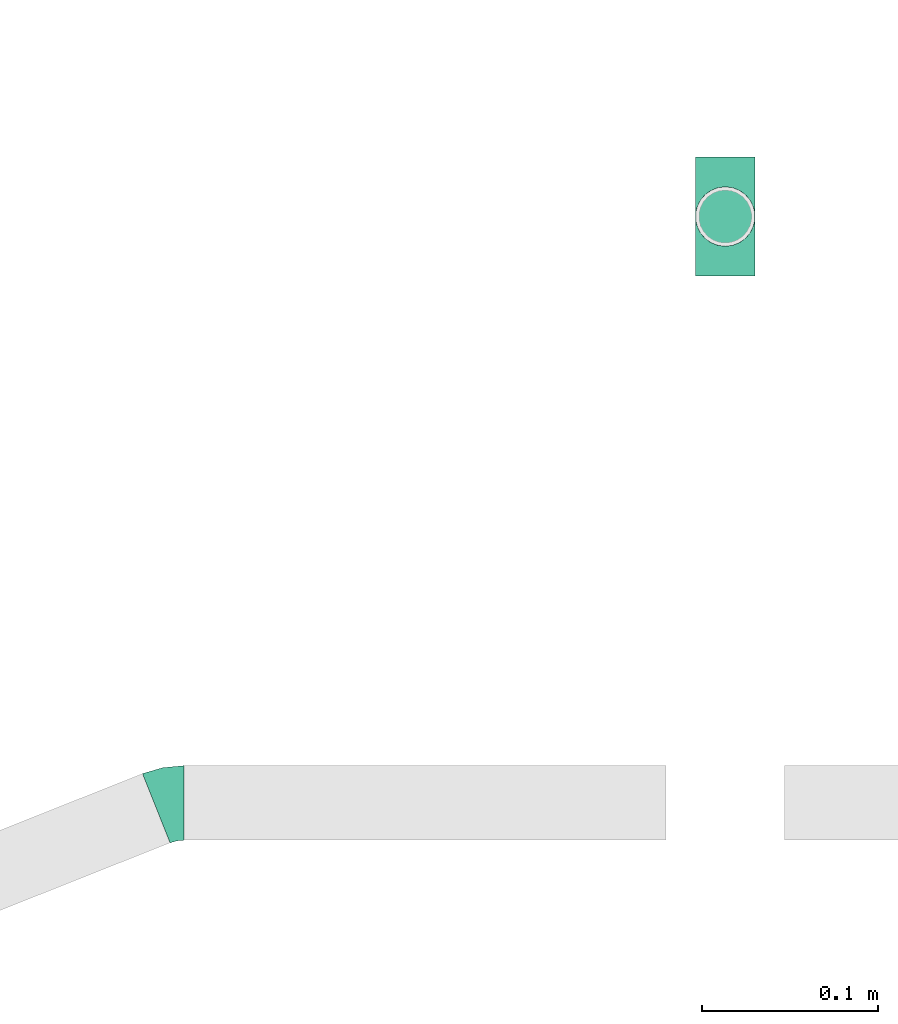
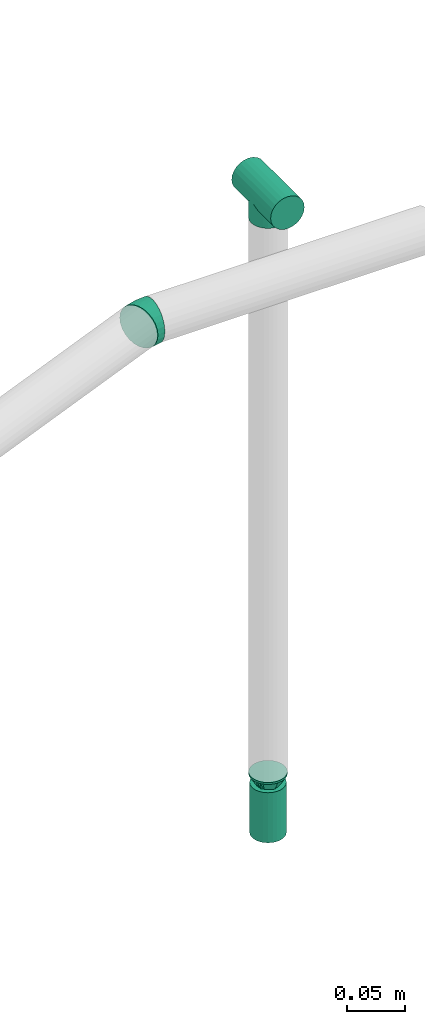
# One storey, part 31 of 94: 3 flow fittings, 1 flow terminal.
"""IFC2X3 building model written with IfcOpenShell, lengths in millimetres."""

from ifc_helpers import new_model, entity, si_unit, converted_unit, derived_unit, direction, frame, origin_with_axes, place, context, subcontext, project, spatial, open_shell, surface_model, source, transform, mapped, type_object, element, save


model = new_model("IFC2X3")

# Units and contexts
model_context = context("Model", 3, precision=0.01, world=frame((0.0, 4.29681676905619e-09, 0.0)), true_north=direction((4.01073788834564e-13, 1.0)))
plan_context = context("Plan", 3, precision=0.01, world=frame((0.0, 4.29681676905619e-09, 0.0)), true_north=direction((4.01073788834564e-13, 1.0)))
body_context = subcontext(model_context, "Body", "Model", "MODEL_VIEW")
ifc_project = project(units=[converted_unit("PLANEANGLEUNIT", "DEGREE", entity("IfcPositiveLengthMeasure", 0.0174532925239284), si_unit("PLANEANGLEUNIT", "RADIAN"), dimensions=[0, 0, 0, 0, 0, 0, 0]), si_unit("AREAUNIT", "SQUARE_METRE"), si_unit("LENGTHUNIT", "METRE", prefix="MILLI"), si_unit("MASSUNIT", "GRAM", prefix="KILO"), si_unit("POWERUNIT", "WATT"), si_unit("PRESSUREUNIT", "PASCAL", prefix="KILO"), si_unit("FORCEUNIT", "NEWTON", prefix="KILO"), si_unit("ELECTRICVOLTAGEUNIT", "VOLT"), si_unit("ELECTRICCURRENTUNIT", "AMPERE"), si_unit("THERMODYNAMICTEMPERATUREUNIT", "DEGREE_CELSIUS"), si_unit("TIMEUNIT", "SECOND"), si_unit("VOLUMEUNIT", "CUBIC_METRE"), derived_unit("LINEARVELOCITYUNIT", [(si_unit("LENGTHUNIT", "METRE"), 1), (si_unit("TIMEUNIT", "SECOND"), -1)]), derived_unit("VOLUMETRICFLOWRATEUNIT", [(si_unit("VOLUMEUNIT", "CUBIC_METRE"), 1), (si_unit("TIMEUNIT", "SECOND"), -1)]), derived_unit("THERMALTRANSMITTANCEUNIT", [(si_unit("POWERUNIT", "WATT"), 1), (si_unit("THERMODYNAMICTEMPERATUREUNIT", "KELVIN"), -1), (si_unit("AREAUNIT", "SQUARE_METRE"), -1)]), derived_unit("SOUNDPRESSUREUNIT", [(si_unit("PRESSUREUNIT", "PASCAL"), 1)])], contexts=[model_context, plan_context])

# Site, building, storey
site_placement = place(None, frame((0.0, -4.29681676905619e-09, 0.0), z_axis=(0.0, 0.0, 1.0), x_axis=(1.0, 0.0, 0.0)))
site = spatial("IfcSite", under=ifc_project, at=site_placement, CompositionType="ELEMENT")
building_placement = place(site_placement, frame((0.0, 4.29681676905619e-09, 0.0), z_axis=(0.0, 0.0, 1.0), x_axis=(1.0, 0.0, 0.0)))
building = spatial("IfcBuilding", under=site, at=building_placement, Name="mc-building", CompositionType="ELEMENT")
storey_placement = place(building_placement, frame((0.0, 0.0, 210900.0), z_axis=(0.0, 0.0, 1.0), x_axis=(1.0, 0.0, 0.0)))
storey = spatial("IfcBuildingStorey", under=building, at=storey_placement, Name="Nivå F", CompositionType="ELEMENT", Elevation=210900.0)

# Flow fittings
pipe_fitting_type_1 = type_object("IfcPipeFittingType", Name="magi_pipe_fe_reducer_centric_short_NOR", PredefinedType="TRANSITION")
shared_shape_1 = source(origin_with_axes(), body_context, "Body", "SurfaceModel", [
    surface_model("IfcShellBasedSurfaceModel", [(14.4, 5.35, -9.26647), (14.4, 0.0, -10.7), (14.4, 2.76936, -10.33541), (14.4, 10.33541, -2.76936), (14.4, 7.56604, -7.56604), (14.4, -10.33541, -2.76936), (14.4, 9.26647, -5.35), (14.4, 0.0, 10.7), (14.4, -5.35, -9.26647), (14.4, -2.76936, -10.33541), (14.4, -7.56604, -7.56604), (14.4, -9.26647, -5.35), (14.4, 10.7, 0.0), (14.4, 10.33541, 2.76936), (14.4, 9.26647, 5.35), (14.4, 7.56604, 7.56604), (14.4, 2.76936, 10.33541), (14.4, 5.35, 9.26647), (14.4, -10.33541, 2.76936), (14.4, -7.56604, 7.56604), (14.4, -9.26647, 5.35), (14.4, -10.7, 0.0), (14.4, -2.76936, 10.33541), (14.4, -5.35, 9.26647), (12.4, 2.76936, 10.33541), (12.4, -10.33541, -2.76936), (12.4, 0.0, 10.7), (12.4, 5.35, 9.26647), (12.4, 7.56604, 7.56604), (12.4, 9.26647, 5.35), (12.4, 10.33541, 2.76936), (12.4, -10.33541, 2.76936), (12.4, -2.76936, 10.33541), (12.4, -7.56604, 7.56604), (12.4, -5.35, 9.26647), (12.4, -9.26647, 5.35), (12.4, -10.7, 0.0), (12.4, 10.33541, -2.76936), (12.4, 5.35, -9.26647), (12.4, 9.26647, -5.35), (12.4, 7.56604, -7.56604), (12.4, 2.76936, -10.33541), (12.4, -9.26647, -5.35), (12.4, -5.35, -9.26647), (12.4, -7.56604, -7.56604), (12.4, 0.0, -10.7), (12.4, -2.76936, -10.33541), (12.4, 10.7, 0.0), (-2.0, 11.9501, 11.9501), (-2.0, 0.0, 16.9), (-2.0, 4.37404, 16.32415), (-2.0, 8.45, 14.63583), (-2.0, 14.63583, 8.45), (-2.0, 16.32415, 4.37404), (-2.0, -16.32415, 4.37404), (-2.0, -8.45, 14.63583), (-2.0, -14.63583, 8.45), (-2.0, -11.9501, 11.9501), (-2.0, -4.37404, 16.32415), (-2.0, -16.32415, -4.37404), (-2.0, -16.9, 0.0), (-2.0, -8.45, -14.63583), (-2.0, 16.32415, -4.37404), (-2.0, 11.9501, -11.9501), (-2.0, 14.63583, -8.45), (-2.0, 8.45, -14.63583), (-2.0, 4.37404, -16.32415), (-2.0, 0.0, -16.9), (-2.0, -11.9501, -11.9501), (-2.0, -14.63583, -8.45), (-2.0, -4.37404, -16.32415), (-2.0, 16.9, 0.0), (0.0, 4.37404, -16.32415), (0.0, 8.45, -14.63583), (0.0, 11.9501, -11.9501), (0.0, 0.0, -16.9), (0.0, 16.32415, -4.37404), (0.0, 16.32415, 4.37404), (0.0, 14.63583, -8.45), (0.0, -8.45, -14.63583), (0.0, -4.37404, -16.32415), (0.0, -11.9501, -11.9501), (0.0, -16.32415, -4.37404), (0.0, -14.63583, -8.45), (0.0, -16.32415, 4.37404), (0.0, 16.9, 0.0), (0.0, 14.63583, 8.45), (0.0, 11.9501, 11.9501), (0.0, 4.37404, 16.32415), (0.0, 8.45, 14.63583), (0.0, 0.0, 16.9), (0.0, -14.63583, 8.45), (0.0, -16.9, 0.0), (0.0, -8.45, 14.63583), (0.0, -11.9501, 11.9501), (0.0, -4.37404, 16.32415), (12.4, 9.3625, -2.31662), (0.0, 14.42505, -5.97505), (0.0, 15.66253, -2.98753), (12.4, -6.6875, -6.94985), (0.0, -13.18758, -8.96258), (0.0, 2.98753, -15.66253), (12.4, 0.0, -9.26647), (12.4, 6.6875, -6.94985), (0.0, 8.96258, -13.18758), (12.4, -9.3625, -2.31662), (0.0, -15.66253, -2.98753), (0.0, -14.42505, -5.97505), (0.0, 5.97505, -14.42505), (0.0, -2.98753, -15.66253), (0.0, -8.96258, -13.18758), (0.0, 13.18758, -8.96258), (12.4, 8.025, -4.63324), (12.4, -2.675, -9.26647), (12.4, 2.675, -9.26647), (0.0, -5.97505, -14.42505), (12.4, -8.025, -4.63324), (12.4, -9.3625, 2.31662), (0.0, -14.42505, 5.97505), (0.0, -15.66253, 2.98753), (12.4, 6.6875, 6.94985), (0.0, 13.18758, 8.96258), (0.0, -2.98753, 15.66253), (12.4, 0.0, 9.26647), (12.4, -6.6875, 6.94985), (0.0, -8.96258, 13.18758), (12.4, 9.3625, 2.31662), (0.0, 15.66253, 2.98753), (0.0, 14.42505, 5.97505), (0.0, -5.97505, 14.42505), (0.0, 2.98753, 15.66253), (0.0, 8.96258, 13.18758), (0.0, -13.18758, 8.96258), (12.4, -8.025, 4.63324), (12.4, 2.675, 9.26647), (12.4, -2.675, 9.26647), (0.0, 5.97505, 14.42505), (12.4, 8.025, 4.63324)], [open_shell([[[0, 1, 2]], [[3, 0, 4]], [[5, 0, 3]], [[3, 4, 6]], [[7, 5, 3]], [[1, 8, 9]], [[1, 0, 8]], [[10, 5, 11]], [[5, 10, 8]], [[0, 5, 8]], [[3, 12, 13]], [[13, 14, 15]], [[13, 15, 16]], [[7, 3, 16]], [[16, 15, 17]], [[7, 18, 5]], [[18, 19, 20]], [[21, 5, 18]], [[19, 22, 23]], [[22, 19, 18]], [[7, 22, 18]], [[13, 16, 3]], [[24, 25, 26]], [[27, 25, 24]], [[28, 29, 30]], [[28, 25, 27]], [[31, 26, 25]], [[32, 33, 34]], [[33, 32, 31]], [[33, 31, 35]], [[32, 26, 31]], [[31, 25, 36]], [[30, 37, 28]], [[25, 28, 37]], [[38, 37, 39]], [[37, 38, 25]], [[38, 39, 40]], [[41, 25, 38]], [[42, 43, 44]], [[43, 42, 25]], [[43, 45, 46]], [[43, 25, 41]], [[41, 45, 43]], [[37, 30, 47]], [[25, 5, 36]], [[42, 11, 25]], [[8, 44, 43]], [[42, 44, 10]], [[9, 43, 46]], [[25, 11, 5]], [[5, 21, 36]], [[9, 8, 43]], [[10, 44, 8]], [[10, 11, 42]], [[1, 9, 46]], [[46, 45, 1]], [[41, 2, 45]], [[38, 0, 41]], [[6, 40, 39]], [[38, 40, 4]], [[3, 39, 37]], [[38, 4, 0]], [[0, 2, 41]], [[12, 3, 37]], [[6, 39, 3]], [[6, 4, 40]], [[47, 12, 37]], [[45, 2, 1]], [[30, 13, 47]], [[29, 14, 30]], [[17, 28, 27]], [[29, 28, 15]], [[16, 27, 24]], [[30, 14, 13]], [[13, 12, 47]], [[16, 17, 27]], [[15, 28, 17]], [[15, 14, 29]], [[7, 16, 24]], [[24, 26, 7]], [[32, 22, 26]], [[34, 23, 32]], [[20, 33, 35]], [[34, 33, 19]], [[18, 35, 31]], [[34, 19, 23]], [[23, 22, 32]], [[21, 18, 31]], [[20, 35, 18]], [[20, 19, 33]], [[36, 21, 31]], [[26, 22, 7]], [[48, 49, 50]], [[48, 50, 51]], [[48, 52, 53]], [[48, 53, 49]], [[49, 53, 54]], [[55, 56, 57]], [[55, 58, 49]], [[56, 55, 49]], [[49, 54, 56]], [[54, 59, 60]], [[54, 53, 61]], [[53, 62, 63]], [[63, 62, 64]], [[63, 65, 66]], [[61, 53, 63]], [[67, 63, 66]], [[59, 68, 69]], [[68, 59, 61]], [[61, 67, 70]], [[59, 54, 61]], [[63, 67, 61]], [[53, 71, 62]], [[72, 73, 74]], [[75, 72, 74]], [[74, 76, 77]], [[76, 74, 78]], [[74, 77, 79]], [[75, 79, 80]], [[75, 74, 79]], [[81, 82, 83]], [[82, 81, 79]], [[79, 84, 82]], [[77, 76, 85]], [[77, 86, 87]], [[77, 87, 88]], [[88, 84, 79]], [[88, 87, 89]], [[84, 88, 90]], [[90, 91, 84]], [[92, 82, 84]], [[91, 93, 94]], [[91, 90, 93]], [[93, 90, 95]], [[79, 77, 88]], [[59, 82, 60]], [[69, 83, 59]], [[79, 68, 61]], [[69, 68, 81]], [[80, 61, 70]], [[59, 83, 82]], [[82, 92, 60]], [[80, 79, 61]], [[81, 68, 79]], [[81, 83, 69]], [[75, 80, 70]], [[70, 67, 75]], [[66, 72, 67]], [[65, 73, 66]], [[78, 63, 64]], [[65, 63, 74]], [[76, 64, 62]], [[65, 74, 73]], [[73, 72, 66]], [[85, 76, 62]], [[78, 64, 76]], [[78, 74, 63]], [[71, 85, 62]], [[67, 72, 75]], [[53, 77, 71]], [[52, 86, 53]], [[89, 48, 51]], [[52, 48, 87]], [[88, 51, 50]], [[53, 86, 77]], [[77, 85, 71]], [[88, 89, 51]], [[87, 48, 89]], [[87, 86, 52]], [[90, 88, 50]], [[50, 49, 90]], [[58, 95, 49]], [[55, 93, 58]], [[91, 57, 56]], [[55, 57, 94]], [[84, 56, 54]], [[55, 94, 93]], [[93, 95, 58]], [[92, 84, 54]], [[91, 56, 84]], [[91, 94, 57]], [[60, 92, 54]], [[49, 95, 90]], [[27, 34, 47]], [[47, 34, 43]], [[43, 38, 47]], [[43, 34, 36]], [[90, 87, 94]], [[92, 94, 87]], [[87, 74, 92]], [[75, 92, 74]], [[81, 92, 75]], [[74, 87, 85]], [[96, 97, 98]], [[81, 99, 100]], [[101, 102, 75]], [[98, 85, 47]], [[74, 103, 104]], [[104, 103, 38]], [[105, 106, 107]], [[38, 108, 104]], [[102, 109, 75]], [[110, 99, 81]], [[47, 96, 98]], [[103, 111, 112]], [[109, 102, 113]], [[36, 92, 106]], [[102, 101, 114]], [[110, 115, 43]], [[96, 112, 97]], [[107, 116, 105]], [[36, 106, 105]], [[113, 115, 109]], [[43, 115, 113]], [[116, 107, 100]], [[108, 38, 114]], [[111, 103, 74]], [[111, 97, 112]], [[99, 110, 43]], [[116, 100, 99]], [[101, 108, 114]], [[117, 118, 119]], [[87, 120, 121]], [[122, 123, 90]], [[119, 92, 36]], [[94, 124, 125]], [[125, 124, 34]], [[126, 127, 128]], [[34, 129, 125]], [[123, 130, 90]], [[131, 120, 87]], [[36, 117, 119]], [[124, 132, 133]], [[130, 123, 134]], [[47, 85, 127]], [[123, 122, 135]], [[131, 136, 27]], [[117, 133, 118]], [[128, 137, 126]], [[47, 127, 126]], [[134, 136, 130]], [[27, 136, 134]], [[137, 128, 121]], [[129, 34, 135]], [[132, 124, 94]], [[132, 118, 133]], [[120, 131, 27]], [[137, 121, 120]], [[122, 129, 135]]])]),
])
flow_fitting_1_placement = place(storey_placement, frame((722000.0, 435527.99693, 2809.35200000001), z_axis=(1.0, 0.0, 0.0), x_axis=(0.0, 0.0, -1.0)))
element("IfcFlowFitting", 1, at=flow_fitting_1_placement, inside=storey, type_object=pipe_fitting_type_1, Name="magi_pipe_fe_reducer_centric_short_NOR", context=body_context, shape_type="MappedRepresentation", body=[
    mapped(shared_shape_1, transform((0.0, 0.0, 0.0), scale=1.0)),
])
pipe_fitting_type_2 = type_object("IfcPipeFittingType", Name="magi_pipe_fe_tee_centric_90_NOR", PredefinedType="JUNCTION")
shared_shape_2 = source(origin_with_axes(), body_context, "Body", "SurfaceModel", [
    surface_model("IfcShellBasedSurfaceModel", [(-33.8, 4.37404, -16.32415), (-33.8, 0.0, -16.9), (-33.8, 16.32415, -4.37404), (-33.8, 8.45, -14.63583), (-33.8, 11.9501, -11.9501), (-33.8, 14.63583, -8.45), (-33.8, -16.9, 0.0), (-33.8, -11.9501, -11.9501), (-33.8, -14.63583, -8.45), (-33.8, -8.45, -14.63583), (-33.8, -4.37404, -16.32415), (-33.8, -16.32415, -4.37404), (-33.8, 14.63583, 8.45), (-33.8, 16.32415, 4.37404), (-33.8, -8.45, 14.63583), (-33.8, 8.45, 14.63583), (-33.8, 11.9501, 11.9501), (-33.8, 4.37404, 16.32415), (-33.8, 0.0, 16.9), (-33.8, -11.9501, 11.9501), (-33.8, -14.63583, 8.45), (-33.8, -16.32415, 4.37404), (-33.8, -4.37404, 16.32415), (-33.8, 16.9, 0.0), (33.8, 4.37404, -16.32415), (33.8, -16.9, 0.0), (33.8, 0.0, -16.9), (33.8, 14.63583, -8.45), (33.8, 8.45, -14.63583), (33.8, 16.32415, -4.37404), (33.8, 11.9501, -11.9501), (33.8, -16.32415, 4.37404), (33.8, -8.45, -14.63583), (33.8, -4.37404, -16.32415), (33.8, -11.9501, -11.9501), (33.8, -14.63583, -8.45), (33.8, -16.32415, -4.37404), (33.8, 16.32415, 4.37404), (33.8, 8.45, 14.63583), (33.8, 14.63583, 8.45), (33.8, 11.9501, 11.9501), (33.8, -8.45, 14.63583), (33.8, 4.37404, 16.32415), (33.8, -14.63583, 8.45), (33.8, -11.9501, 11.9501), (33.8, 0.0, 16.9), (33.8, -4.37404, 16.32415), (33.8, 16.9, 0.0), (16.28698, -16.28698, 4.51047), (16.9, -16.9, 0.0), (14.62704, -14.62704, 8.4652), (9.47213, -9.47213, 13.99602), (12.26343, -12.26343, 11.62834), (-16.9, -16.9, 0.0), (-16.28698, -16.28698, 4.51047), (-14.62704, -14.62704, 8.4652), (-12.26343, -12.26343, 11.62834), (-9.47213, -9.47213, 13.99602), (-6.42894, -6.42894, 15.62942), (6.42894, -6.42894, 15.62942), (3.24522, -3.24522, 16.58549), (0.0, 0.0, 16.9), (-3.24522, -3.24522, 16.58549), (3.24522, -3.24522, -16.58549), (0.0, 0.0, -16.9), (-3.24522, -3.24522, -16.58549), (-6.42894, -6.42894, -15.62942), (6.42894, -6.42894, -15.62942), (9.47213, -9.47213, -13.99602), (12.26343, -12.26343, -11.62834), (14.62704, -14.62704, -8.4652), (16.28698, -16.28698, -4.51047), (-9.47213, -9.47213, -13.99602), (-12.26343, -12.26343, -11.62834), (-16.28698, -16.28698, -4.51047), (-14.62704, -14.62704, -8.4652), (4.37404, -25.35, -16.32415), (-16.9, -25.35, 0.0), (0.0, -25.35, -16.9), (14.63583, -25.35, -8.45), (8.45, -25.35, -14.63583), (16.32415, -25.35, -4.37404), (11.9501, -25.35, -11.9501), (-11.9501, -25.35, -11.9501), (-8.45, -25.35, -14.63583), (-4.37404, -25.35, -16.32415), (-14.63583, -25.35, -8.45), (-16.32415, -25.35, -4.37404), (16.9, -25.35, 0.0), (8.45, -25.35, 14.63583), (16.32415, -25.35, 4.37404), (14.63583, -25.35, 8.45), (-8.45, -25.35, 14.63583), (11.9501, -25.35, 11.9501), (4.37404, -25.35, 16.32415), (-16.32415, -25.35, 4.37404), (-11.9501, -25.35, 11.9501), (-14.63583, -25.35, 8.45), (0.0, -25.35, 16.9), (-4.37404, -25.35, 16.32415)], [open_shell([[[0, 1, 2]], [[3, 0, 4]], [[0, 2, 5]], [[4, 0, 5]], [[6, 2, 1]], [[7, 8, 9]], [[1, 10, 9]], [[11, 6, 8]], [[1, 9, 8]], [[1, 8, 6]], [[6, 12, 2]], [[12, 13, 2]], [[14, 12, 6]], [[12, 14, 15]], [[16, 12, 15]], [[17, 15, 18]], [[19, 14, 20]], [[21, 20, 14]], [[22, 18, 14]], [[14, 6, 21]], [[14, 18, 15]], [[23, 2, 13]], [[24, 25, 26]], [[27, 24, 28]], [[27, 29, 24]], [[27, 28, 30]], [[31, 25, 24]], [[26, 32, 33]], [[26, 34, 32]], [[35, 25, 36]], [[35, 34, 26]], [[25, 35, 26]], [[24, 29, 31]], [[29, 37, 38]], [[38, 37, 39]], [[38, 31, 29]], [[38, 39, 40]], [[41, 38, 42]], [[43, 41, 44]], [[41, 43, 31]], [[41, 45, 46]], [[41, 31, 38]], [[42, 45, 41]], [[29, 47, 37]], [[31, 43, 48]], [[25, 31, 49]], [[49, 31, 48]], [[43, 50, 48]], [[44, 41, 51]], [[50, 43, 52]], [[51, 52, 44]], [[52, 43, 44]], [[53, 54, 21]], [[53, 21, 6]], [[21, 54, 20]], [[54, 55, 20]], [[56, 57, 19]], [[19, 20, 56]], [[19, 57, 14]], [[56, 20, 55]], [[14, 57, 58]], [[51, 41, 59]], [[60, 45, 61]], [[59, 46, 60]], [[46, 59, 41]], [[60, 46, 45]], [[61, 45, 42]], [[39, 37, 13]], [[16, 38, 40]], [[12, 40, 39]], [[42, 38, 15]], [[23, 37, 47]], [[62, 61, 18]], [[62, 22, 58]], [[22, 62, 18]], [[58, 22, 14]], [[61, 17, 18]], [[42, 17, 61]], [[15, 17, 42]], [[15, 38, 16]], [[12, 16, 40]], [[13, 12, 39]], [[37, 23, 13]], [[5, 27, 30]], [[23, 47, 29]], [[30, 28, 3]], [[27, 2, 29]], [[26, 33, 63]], [[26, 64, 24]], [[64, 26, 63]], [[28, 24, 0]], [[64, 0, 24]], [[4, 30, 3]], [[2, 27, 5]], [[5, 30, 4]], [[2, 23, 29]], [[65, 66, 10]], [[1, 0, 64]], [[1, 65, 10]], [[66, 9, 10]], [[0, 3, 28]], [[1, 64, 65]], [[63, 33, 67]], [[32, 34, 68]], [[69, 68, 34]], [[35, 70, 69]], [[69, 34, 35]], [[32, 68, 67]], [[36, 25, 49]], [[36, 71, 35]], [[71, 36, 49]], [[35, 71, 70]], [[72, 9, 66]], [[72, 7, 9]], [[7, 72, 73]], [[7, 73, 8]], [[74, 53, 11]], [[75, 74, 8]], [[74, 11, 8]], [[11, 53, 6]], [[75, 8, 73]], [[32, 67, 33]], [[76, 77, 78]], [[79, 76, 80]], [[79, 81, 76]], [[79, 80, 82]], [[77, 76, 81]], [[78, 83, 84]], [[84, 85, 78]], [[86, 77, 87]], [[83, 78, 86]], [[77, 86, 78]], [[81, 88, 77]], [[89, 88, 90]], [[89, 90, 91]], [[92, 77, 89]], [[89, 91, 93]], [[92, 89, 94]], [[95, 96, 97]], [[96, 95, 92]], [[92, 98, 99]], [[95, 77, 92]], [[94, 98, 92]], [[89, 77, 88]], [[77, 95, 53]], [[54, 53, 95]], [[97, 96, 56]], [[96, 92, 57]], [[95, 97, 54]], [[58, 92, 99]], [[55, 54, 97]], [[56, 55, 97]], [[58, 57, 92]], [[98, 61, 62]], [[58, 99, 62]], [[56, 96, 57]], [[62, 99, 98]], [[94, 60, 98]], [[89, 59, 94]], [[91, 90, 48]], [[52, 93, 91]], [[93, 51, 89]], [[49, 90, 88]], [[59, 60, 94]], [[51, 59, 89]], [[49, 48, 90]], [[50, 52, 91]], [[48, 50, 91]], [[51, 93, 52]], [[98, 60, 61]], [[88, 81, 49]], [[71, 49, 81]], [[79, 82, 69]], [[82, 80, 68]], [[81, 79, 71]], [[67, 80, 76]], [[70, 71, 79]], [[69, 70, 79]], [[67, 68, 80]], [[78, 64, 63]], [[67, 76, 63]], [[69, 82, 68]], [[63, 76, 78]], [[85, 65, 78]], [[84, 66, 85]], [[86, 87, 74]], [[86, 73, 83]], [[72, 84, 83]], [[53, 87, 77]], [[66, 65, 85]], [[72, 66, 84]], [[53, 74, 87]], [[75, 73, 86]], [[74, 75, 86]], [[72, 83, 73]], [[78, 65, 64]]])]),
])
flow_fitting_2_placement = place(storey_placement, frame((722000.0, 435527.99693, 3423.42494), z_axis=(-1.0, 0.0, 0.0), x_axis=(0.0, -1.0, 0.0)))
element("IfcFlowFitting", 2, at=flow_fitting_2_placement, inside=storey, type_object=pipe_fitting_type_2, Name="magi_pipe_fe_tee_centric_90_NOR", context=body_context, shape_type="MappedRepresentation", body=[
    mapped(shared_shape_2, transform((0.0, 0.0, 0.0), scale=1.0)),
])
pipe_fitting_type_3 = type_object("IfcPipeFittingType", Name="magi_pipe_fe_elbow_short_001", PredefinedType="BEND")
shared_shape_3 = source(origin_with_axes(), body_context, "Body", "SurfaceModel", [
    surface_model("IfcShellBasedSurfaceModel", [(-8.11962, 10.6, -18.35974), (-8.11962, 5.48696, -20.47763), (-8.11962, 0.0, -21.2), (-8.11962, 14.99066, -14.99066), (-8.11962, 20.47763, -5.48696), (-8.11962, 18.35974, -10.6), (-8.11962, -14.99066, 14.99066), (-8.11962, -21.2, 0.0), (-8.11962, -10.6, -18.35974), (-8.11962, -14.99066, -14.99066), (-8.11962, -5.48696, -20.47763), (-8.11962, -20.47763, -5.48696), (-8.11962, -18.35974, -10.6), (-8.11962, 10.6, 18.35974), (-8.11962, 20.47763, 5.48696), (-8.11962, 18.35974, 10.6), (-8.11962, 14.99066, 14.99066), (-8.11962, 0.0, 21.2), (-8.11962, 5.48696, 20.47763), (-8.11962, -20.47763, 5.48696), (-8.11962, -18.35974, 10.6), (-8.11962, -10.6, 18.35974), (-8.11962, -5.48696, 20.47763), (-8.11962, 21.2, 0.0), (7.54516, 2.99981, -21.2), (5.51799, 8.09857, -20.47763), (3.62896, 12.84986, -18.35974), (14.32821, -14.06097, -10.6), (2.00682, 16.92988, -14.99066), (0.76211, 20.06059, -10.6), (-0.02035, 22.02864, -5.48696), (11.46135, -6.85023, -18.35974), (13.08349, -10.93025, -14.99066), (9.57233, -2.09894, -20.47763), (15.37755, -16.70028, 0.0), (15.11067, -16.02901, -5.48696), (15.11067, -16.02901, 5.48696), (3.62896, 12.84986, 18.35974), (-0.28723, 22.69991, 0.0), (-0.02035, 22.02864, 5.48696), (0.76211, 20.06059, 10.6), (2.00682, 16.92988, 14.99066), (13.08349, -10.93025, 14.99066), (5.51799, 8.09857, 20.47763), (14.32821, -14.06097, 10.6), (11.46135, -6.85023, 18.35974), (7.54516, 2.99981, 21.2), (9.57233, -2.09894, 20.47763), (2.32577, -12.14496, 16.63979), (2.25529, -16.08059, 12.67487), (3.56238, -18.60247, 7.80501), (1.42809, -7.45735, 19.48063), (0.42243, -2.20591, 20.9843), (-0.62216, 3.24888, 21.0476), (-4.13227, 21.57835, 0.0), (0.40328, -20.24732, 3.97289), (3.84245, -20.06494, 0.0), (0.42243, -2.20591, -20.9843), (1.42809, -7.45735, -19.48063), (3.84528, -15.7761, -12.67487), (3.56238, -18.60247, -7.80501), (-0.62216, 3.24888, -21.0476), (2.32577, -12.14496, -16.63979), (7.10567, -18.96381, -3.97289)], [open_shell([[[0, 1, 2]], [[3, 0, 2]], [[4, 5, 3]], [[2, 4, 3]], [[6, 2, 7]], [[8, 9, 10]], [[9, 2, 10]], [[11, 7, 12]], [[12, 2, 9]], [[12, 7, 2]], [[6, 4, 2]], [[13, 14, 4]], [[15, 14, 16]], [[13, 4, 6]], [[16, 14, 13]], [[13, 17, 18]], [[19, 20, 7]], [[7, 20, 6]], [[21, 22, 6]], [[17, 6, 22]], [[6, 17, 13]], [[23, 4, 14]], [[24, 25, 26]], [[27, 24, 26]], [[28, 29, 30]], [[28, 30, 26]], [[27, 26, 30]], [[31, 27, 32]], [[31, 33, 24]], [[27, 34, 35]], [[31, 24, 27]], [[27, 36, 34]], [[27, 30, 36]], [[37, 38, 39]], [[37, 39, 40]], [[38, 37, 36]], [[37, 40, 41]], [[42, 37, 43]], [[36, 42, 44]], [[36, 37, 42]], [[45, 46, 47]], [[46, 45, 42]], [[43, 46, 42]], [[38, 36, 30]], [[48, 6, 49]], [[21, 6, 48]], [[6, 20, 49]], [[36, 44, 50]], [[20, 50, 49]], [[22, 21, 51]], [[48, 51, 21]], [[17, 22, 52]], [[17, 53, 18]], [[44, 49, 50]], [[50, 20, 19]], [[42, 45, 48]], [[15, 16, 40]], [[13, 41, 16]], [[47, 46, 52]], [[51, 52, 22]], [[46, 43, 53]], [[54, 14, 39]], [[55, 50, 19]], [[54, 23, 14]], [[39, 14, 15]], [[7, 55, 19]], [[37, 13, 18]], [[52, 53, 17]], [[7, 56, 55]], [[45, 47, 51]], [[52, 51, 47]], [[45, 51, 48]], [[53, 52, 46]], [[42, 48, 49]], [[42, 49, 44]], [[56, 34, 36]], [[40, 39, 15]], [[38, 54, 39]], [[37, 18, 43]], [[13, 37, 41]], [[40, 16, 41]], [[18, 53, 43]], [[36, 50, 55]], [[36, 55, 56]], [[2, 57, 10]], [[58, 57, 33]], [[12, 59, 60]], [[2, 1, 61]], [[28, 3, 5]], [[62, 58, 31]], [[3, 28, 0]], [[63, 60, 35]], [[4, 30, 5]], [[32, 27, 59]], [[57, 61, 24]], [[0, 25, 1]], [[56, 7, 11]], [[11, 60, 63]], [[62, 9, 8]], [[11, 63, 56]], [[11, 12, 60]], [[12, 9, 59]], [[58, 8, 10]], [[4, 23, 54]], [[54, 38, 30]], [[58, 10, 57]], [[30, 29, 5]], [[28, 5, 29]], [[9, 62, 59]], [[0, 26, 25]], [[62, 8, 58]], [[27, 60, 59]], [[0, 28, 26]], [[57, 2, 61]], [[24, 61, 25]], [[58, 33, 31]], [[25, 61, 1]], [[34, 63, 35]], [[62, 31, 32]], [[27, 35, 60]], [[34, 56, 63]], [[32, 59, 62]], [[33, 57, 24]], [[4, 54, 30]]])]),
])
flow_fitting_3_placement = place(storey_placement, frame((721683.83068, 435194.37907, 3600.0), z_axis=(0.0, 0.0, 1.0), x_axis=(-1.0, 0.0, 0.0)))
element("IfcFlowFitting", 3, at=flow_fitting_3_placement, inside=storey, type_object=pipe_fitting_type_3, Name="magi_pipe_fe_elbow_short_001", context=body_context, shape_type="MappedRepresentation", body=[
    mapped(shared_shape_3, transform((0.0, 0.0, 0.0), scale=1.0)),
])

# Flow terminal
fire_suppression_terminal_type = type_object("IfcFireSuppressionTerminalType", Name="SP-15-K80-68DGR-STD-HIMLING", PredefinedType="NOTDEFINED")
shared_shape_4 = source(origin_with_axes(), body_context, "Body", "SurfaceModel", [
    surface_model("IfcShellBasedSurfaceModel", [(4.1411, -15.45481, 53.0), (8.0, -13.85641, 53.0), (11.31371, -11.31371, 53.0), (-8.0, -13.85641, 53.0), (15.45481, -4.1411, 53.0), (16.0, 0.0, 53.0), (13.85641, -8.0, 53.0), (0.0, -16.0, 53.0), (-4.1411, -15.45481, 53.0), (-13.85641, -8.0, 53.0), (-11.31371, -11.31371, 53.0), (-15.45481, -4.1411, 53.0), (15.45481, 4.1411, 53.0), (13.85641, 8.0, 53.0), (11.31371, 11.31371, 53.0), (-4.1411, 15.45481, 53.0), (8.0, 13.85641, 53.0), (4.1411, 15.45481, 53.0), (0.0, 16.0, 53.0), (-13.85641, 8.0, 53.0), (-15.45481, 4.1411, 53.0), (-16.0, 0.0, 53.0), (-11.31371, 11.31371, 53.0), (-8.0, 13.85641, 53.0), (0.0, 16.0, 0.0), (4.1411, 15.45481, 0.0), (8.0, 13.85641, 0.0), (-4.1411, 15.45481, 0.0), (11.31371, 11.31371, 0.0), (13.85641, 8.0, 0.0), (15.45481, 4.1411, 0.0), (-15.45481, -4.1411, 0.0), (-11.31371, 11.31371, 0.0), (-8.0, 13.85641, 0.0), (-13.85641, 8.0, 0.0), (-15.45481, 4.1411, 0.0), (-16.0, 0.0, 0.0), (4.1411, -15.45481, 0.0), (16.0, 0.0, 0.0), (15.45481, -4.1411, 0.0), (13.85641, -8.0, 0.0), (11.31371, -11.31371, 0.0), (8.0, -13.85641, 0.0), (-8.0, -13.85641, 0.0), (-13.85641, -8.0, 0.0), (-11.31371, -11.31371, 0.0), (0.0, -16.0, 0.0), (-4.1411, -15.45481, 0.0)], [open_shell([[[0, 1, 2]], [[3, 0, 2]], [[4, 5, 2]], [[4, 2, 6]], [[3, 2, 5]], [[7, 3, 8]], [[7, 0, 3]], [[3, 9, 10]], [[9, 3, 11]], [[5, 11, 3]], [[5, 12, 11]], [[12, 13, 14]], [[15, 12, 14]], [[16, 17, 18]], [[14, 16, 15]], [[18, 15, 16]], [[11, 19, 20]], [[21, 11, 20]], [[22, 15, 23]], [[15, 22, 19]], [[19, 11, 15]], [[11, 12, 15]], [[24, 25, 26]], [[27, 24, 26]], [[28, 29, 30]], [[27, 26, 28]], [[27, 28, 31]], [[27, 32, 33]], [[32, 27, 34]], [[34, 31, 35]], [[31, 34, 27]], [[35, 31, 36]], [[28, 30, 31]], [[37, 38, 39]], [[37, 39, 40]], [[41, 42, 37]], [[41, 37, 40]], [[38, 37, 43]], [[44, 43, 45]], [[43, 44, 31]], [[43, 46, 47]], [[43, 31, 38]], [[37, 46, 43]], [[38, 31, 30]], [[11, 31, 44]], [[45, 9, 44]], [[3, 43, 47]], [[45, 43, 10]], [[8, 47, 46]], [[31, 21, 36]], [[31, 11, 21]], [[44, 9, 11]], [[45, 10, 9]], [[3, 10, 43]], [[47, 8, 3]], [[46, 7, 8]], [[0, 37, 42]], [[41, 1, 42]], [[6, 40, 39]], [[41, 40, 2]], [[4, 39, 38]], [[37, 0, 7]], [[42, 1, 0]], [[41, 2, 1]], [[40, 6, 2]], [[4, 6, 39]], [[38, 5, 4]], [[37, 7, 46]], [[12, 38, 30]], [[13, 30, 29]], [[16, 26, 25]], [[17, 25, 24]], [[30, 13, 12]], [[12, 5, 38]], [[28, 14, 13]], [[28, 26, 14]], [[14, 26, 16]], [[25, 17, 16]], [[28, 13, 29]], [[24, 18, 17]], [[15, 27, 33]], [[32, 23, 33]], [[19, 34, 35]], [[32, 34, 22]], [[20, 35, 36]], [[27, 15, 18]], [[33, 23, 15]], [[32, 22, 23]], [[34, 19, 22]], [[20, 19, 35]], [[36, 21, 20]], [[27, 18, 24]]])]),
])
flow_terminal_placement = place(storey_placement, frame((722000.0, 435527.99693, 2800.0), z_axis=(0.0, 0.0, -1.0), x_axis=(-1.0, 0.0, 0.0)))
element("IfcFlowTerminal", 4, at=flow_terminal_placement, inside=storey, type_object=fire_suppression_terminal_type, Name="SP-15-K80-68DGR-STD-HIMLING", context=body_context, shape_type="MappedRepresentation", body=[
    mapped(shared_shape_4, transform((0.0, 0.0, 0.0), scale=1.0)),
])

save(model, "model.ifc")
